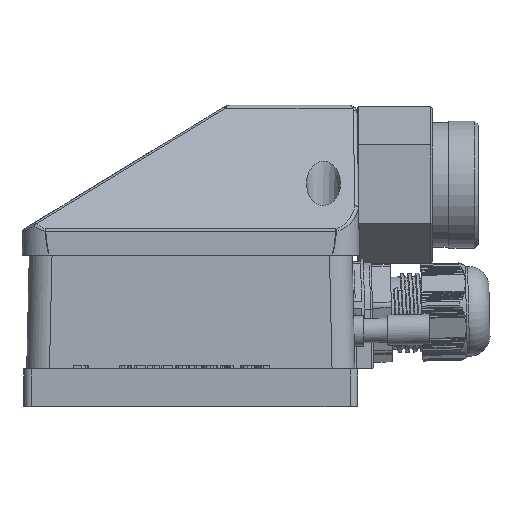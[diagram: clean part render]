
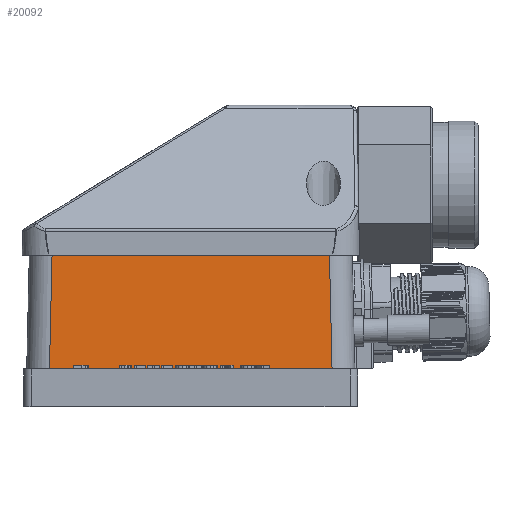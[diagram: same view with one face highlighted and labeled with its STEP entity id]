
A CAD part, left-side view. The second image highlights one B-rep face of the part: STEP entity #20092.
In plain terms, the highlighted planar face has unit normal (-1, 0, 0.023) as drawn and (-1, 0.023, 0) by its records, which use the part's own axes.
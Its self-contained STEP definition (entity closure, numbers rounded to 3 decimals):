
#481=PLANE('',#21458);
#1120=LINE('',#28396,#2842);
#1121=LINE('',#28398,#2843);
#1122=LINE('',#28400,#2844);
#1123=LINE('',#28401,#2845);
#2842=VECTOR('',#23256,1000.);
#2843=VECTOR('',#23257,1000.);
#2844=VECTOR('',#23258,1000.);
#2845=VECTOR('',#23259,1000.);
#5695=FACE_OUTER_BOUND('',#6901,.T.);
#6901=EDGE_LOOP('',(#14059,#14060,#14061,#14062));
#8751=VERTEX_POINT('',#27892);
#8904=VERTEX_POINT('',#28395);
#8905=VERTEX_POINT('',#28397);
#8906=VERTEX_POINT('',#28399);
#10932=EDGE_CURVE('',#8904,#8751,#1120,.T.);
#10933=EDGE_CURVE('',#8751,#8905,#1121,.T.);
#10934=EDGE_CURVE('',#8905,#8906,#1122,.T.);
#10935=EDGE_CURVE('',#8906,#8904,#1123,.T.);
#14059=ORIENTED_EDGE('',*,*,#10932,.T.);
#14060=ORIENTED_EDGE('',*,*,#10933,.T.);
#14061=ORIENTED_EDGE('',*,*,#10934,.T.);
#14062=ORIENTED_EDGE('',*,*,#10935,.T.);
#20092=ADVANCED_FACE('',(#5695),#481,.T.);
#21458=AXIS2_PLACEMENT_3D('',#28394,#23254,#23255);
#23254=DIRECTION('center_axis',(-1.,0.023,0.));
#23255=DIRECTION('ref_axis',(-0.023,-1.,0.));
#23256=DIRECTION('',(0.023,0.999,-0.023));
#23257=DIRECTION('',(0.,0.,-1.));
#23258=DIRECTION('',(-0.023,-0.999,-0.023));
#23259=DIRECTION('',(0.,0.,1.));
#27892=CARTESIAN_POINT('',(0.692,30.511,-6.691));
#28394=CARTESIAN_POINT('Origin',(0.,0.,-86.5));
#28395=CARTESIAN_POINT('',(0.,0.,-5.998));
#28396=CARTESIAN_POINT('',(0.041,1.825,-6.04));
#28397=CARTESIAN_POINT('',(0.692,30.511,-79.809));
#28398=CARTESIAN_POINT('',(0.692,30.511,-79.798));
#28399=CARTESIAN_POINT('',(0.,0.,-80.502));
#28400=CARTESIAN_POINT('',(-0.003,-0.136,-80.505));
#28401=CARTESIAN_POINT('',(0.,0.,-86.5));
